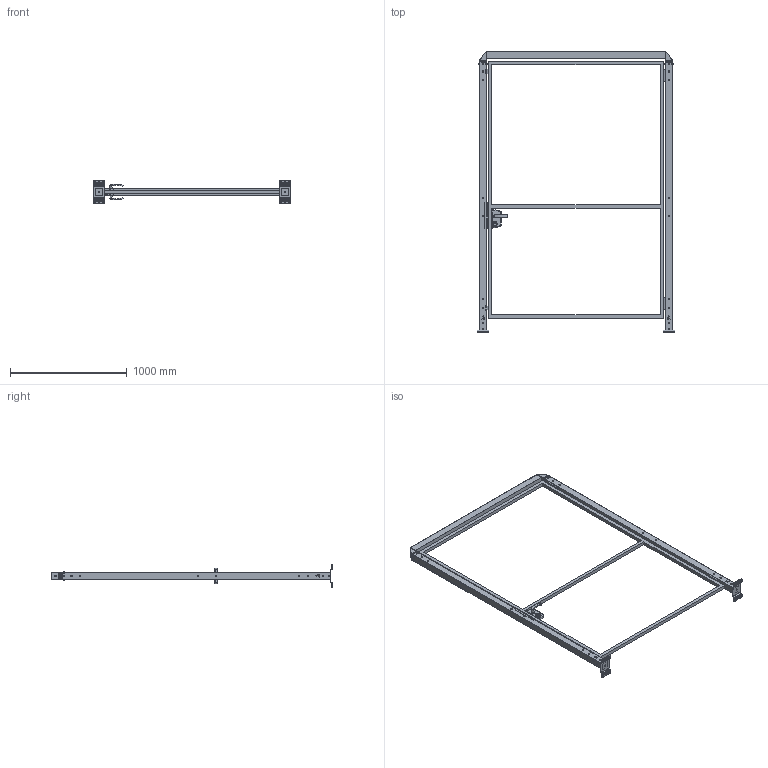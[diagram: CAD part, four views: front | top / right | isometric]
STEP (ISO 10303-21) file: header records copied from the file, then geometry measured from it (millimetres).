
FILE_DESCRIPTION(('STEP AP242'),'1');
FILE_NAME('vfda_bscgd03_15002320.stp','2025-01-31T11:26:12',('TraceParts'),('TraceParts S.A.'),'Spatial InterOp 3D',' ',' ');
FILE_SCHEMA(('AP242_MANAGED_MODEL_BASED_3D_ENGINEERING_MIM_LF {1 0 10303 442 1 1 4}'));
Length unit declared in the file: millimetre
Products named in the file (1): vfda_bscgd03_15002320_1
Bounding box: 1690 x 2401 x 192 mm (x, y, z)
Volume: 10845788.3 mm3; surface area: 4231825 mm2
Topology: 13 solids, 13 shells, 1629 faces, 4331 edges, 2766 vertices
Faces by surface type: plane 807, cylinder 554, bspline 194, cone 46, torus 28
Entity records: 67608 total; most frequent: CARTESIAN_POINT 14334, ORIENTED_EDGE 8662, DIRECTION 7987, EDGE_CURVE 4331, VERTEX_POINT 2766, AXIS2_PLACEMENT_3D 2674, LINE 2639, VECTOR 2639
